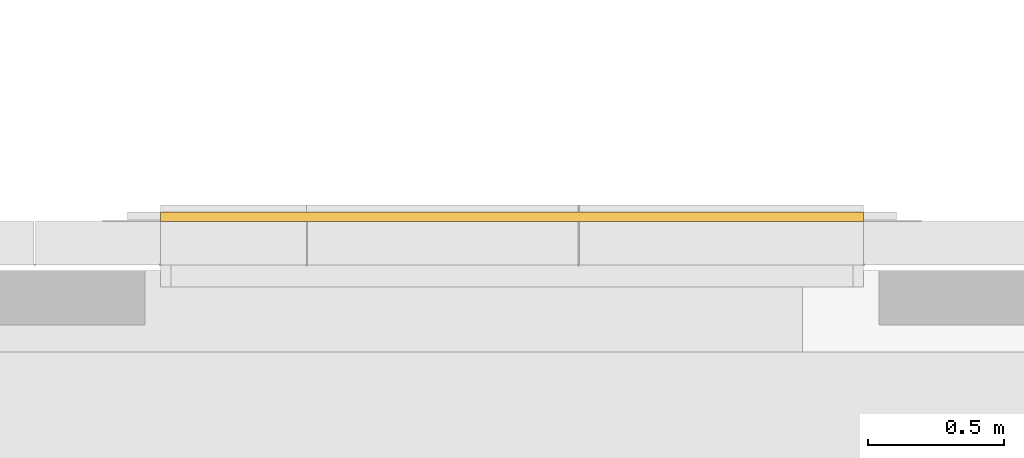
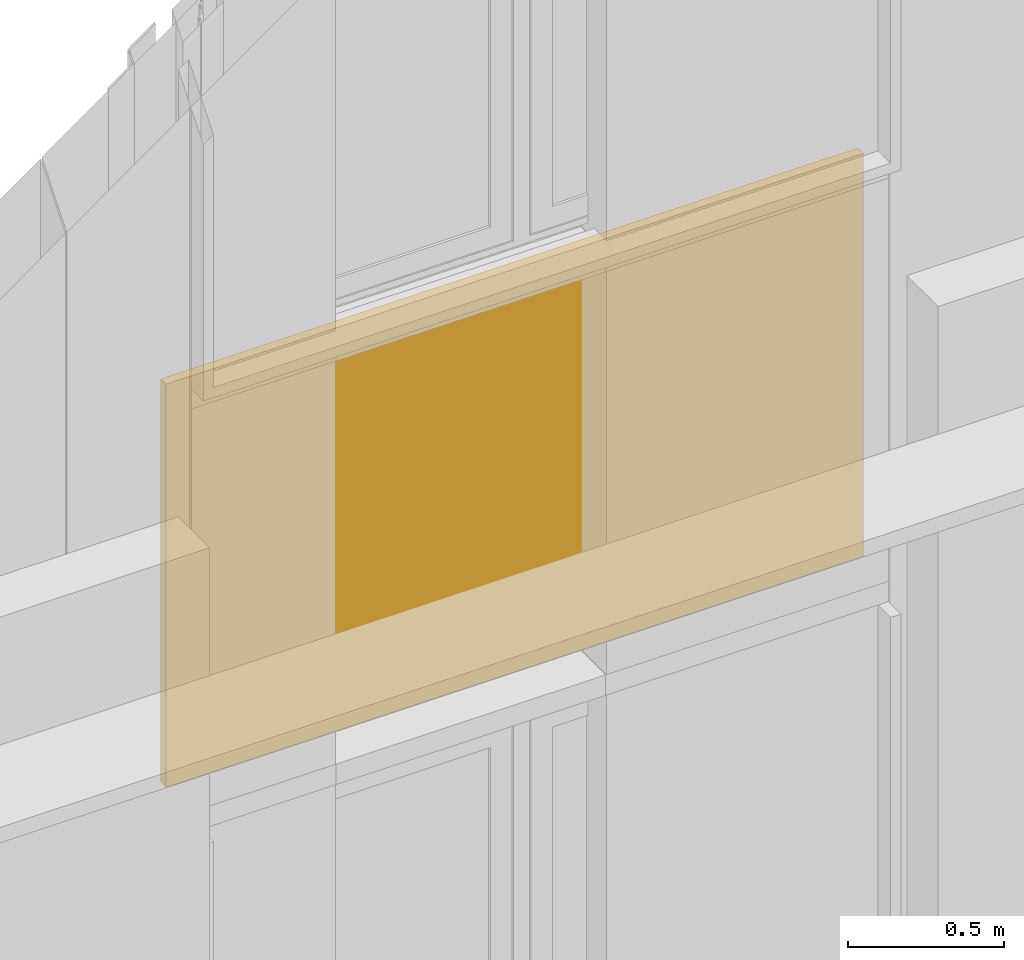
# One storey, part 237 of 302: 1 curtain wall, 1 element without a shape of its own.
"""IFC2X3 building model written with IfcOpenShell, lengths in metres."""

from ifc_helpers import new_model, entity, si_unit, converted_unit, derived_unit, direction, frame, frame_2d, origin, place, context, subcontext, project, spatial, rectangle, extrude, material, layer, layer_set, layer_usage, type_object, element, aggregate, save


model = new_model("IFC2X3")

# Units and contexts
model_context = context("Model", 3, precision=1e-05, world=origin(), true_north=direction((6.12303176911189e-17, 1.0)))
body_context = subcontext(model_context, "Body", "Model", "MODEL_VIEW")
ifc_project = project(units=[si_unit("LENGTHUNIT", "METRE"), si_unit("AREAUNIT", "SQUARE_METRE"), si_unit("VOLUMEUNIT", "CUBIC_METRE"), converted_unit("PLANEANGLEUNIT", "DEGREE", entity("IfcRatioMeasure", 0.0174532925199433), si_unit("PLANEANGLEUNIT", "RADIAN"), dimensions=[0, 0, 0, 0, 0, 0, 0]), si_unit("MASSUNIT", "GRAM", prefix="KILO"), derived_unit("MASSDENSITYUNIT", [(si_unit("MASSUNIT", "GRAM", prefix="KILO"), 1), (si_unit("LENGTHUNIT", "METRE"), -3)]), derived_unit("MOMENTOFINERTIAUNIT", [(si_unit("LENGTHUNIT", "METRE"), 4)]), si_unit("TIMEUNIT", "SECOND"), si_unit("FREQUENCYUNIT", "HERTZ"), si_unit("THERMODYNAMICTEMPERATUREUNIT", "DEGREE_CELSIUS"), derived_unit("THERMALTRANSMITTANCEUNIT", [(si_unit("MASSUNIT", "GRAM", prefix="KILO"), 1), (si_unit("THERMODYNAMICTEMPERATUREUNIT", "KELVIN"), -1), (si_unit("TIMEUNIT", "SECOND"), -3)]), derived_unit("VOLUMETRICFLOWRATEUNIT", [(si_unit("LENGTHUNIT", "METRE"), 3), (si_unit("TIMEUNIT", "SECOND"), -1)]), si_unit("ELECTRICCURRENTUNIT", "AMPERE"), si_unit("ELECTRICVOLTAGEUNIT", "VOLT"), si_unit("POWERUNIT", "WATT"), si_unit("FORCEUNIT", "NEWTON", prefix="KILO"), si_unit("ILLUMINANCEUNIT", "LUX"), si_unit("LUMINOUSFLUXUNIT", "LUMEN"), si_unit("LUMINOUSINTENSITYUNIT", "CANDELA"), derived_unit("USERDEFINED", [(si_unit("MASSUNIT", "GRAM", prefix="KILO"), -1), (si_unit("LENGTHUNIT", "METRE"), -2), (si_unit("TIMEUNIT", "SECOND"), 3), (si_unit("LUMINOUSFLUXUNIT", "LUMEN"), 1)]), derived_unit("LINEARVELOCITYUNIT", [(si_unit("LENGTHUNIT", "METRE"), 1), (si_unit("TIMEUNIT", "SECOND"), -1)]), si_unit("PRESSUREUNIT", "PASCAL"), derived_unit("USERDEFINED", [(si_unit("LENGTHUNIT", "METRE"), -2), (si_unit("MASSUNIT", "GRAM", prefix="KILO"), 1), (si_unit("TIMEUNIT", "SECOND"), -2)]), derived_unit("LINEARFORCEUNIT", [(si_unit("MASSUNIT", "GRAM", prefix="KILO"), 1), (si_unit("LENGTHUNIT", "METRE"), 1), (si_unit("TIMEUNIT", "SECOND"), -2), (si_unit("LENGTHUNIT", "METRE"), -1)]), derived_unit("PLANARFORCEUNIT", [(si_unit("MASSUNIT", "GRAM", prefix="KILO"), 1), (si_unit("LENGTHUNIT", "METRE"), 1), (si_unit("TIMEUNIT", "SECOND"), -2), (si_unit("LENGTHUNIT", "METRE"), -2)])], contexts=[model_context])

# Site, building, storey
site_placement = place(None, origin())
site = spatial("IfcSite", under=ifc_project, at=site_placement, Name="Default", CompositionType="ELEMENT")
building_placement = place(site_placement, origin())
building = spatial("IfcBuilding", under=site, at=building_placement, CompositionType="ELEMENT")
storey_placement = place(building_placement, frame((0.0, 0.0, -1.3)))
storey = spatial("IfcBuildingStorey", under=building, at=storey_placement, Name="00_EG", CompositionType="ELEMENT", Elevation=-1.3)

# Curtain walls
curtain_wall_type_1 = type_object("IfcCurtainWallType", Name="Fassade:Curtain Wall 1", PredefinedType="NOTDEFINED")
curtain_wall_1_placement = place(storey_placement, frame((0.0, 0.0, 1.3)))
curtain_wall_1 = element("IfcCurtainWall", 1, at=curtain_wall_1_placement, inside=storey, type_object=curtain_wall_type_1, Name="Fassade:Curtain Wall 1", ObjectType="Fassade:Curtain Wall 1")
ifc_material = material(Name="Glass")
ifc_layer = layer(ifc_material, 0.035)
ifc_layer_set = layer_set([ifc_layer], Name="Fassade:Sandwichpaneele 16cm")
ifc_layer_usage = layer_usage(ifc_layer_set, "AXIS2", "POSITIVE", -0.0175)
curtain_wall_type_2 = type_object("IfcCurtainWallType", Name="Basiswand:Glass", PredefinedType="NOTDEFINED", material=ifc_layer_set)
curtain_wall_2_placement = place(storey_placement, frame((-210.562611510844, 45.755588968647, 4.10999999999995), z_axis=(0.0, 0.0, 1.0), x_axis=(-1.0, 0.0, 0.0)))
curtain_wall_2 = element("IfcCurtainWall", 2, at=curtain_wall_2_placement, type_object=curtain_wall_type_2, material=ifc_layer_usage, Name="Basiswand:Glass", ObjectType="Basiswand:Glass", context=body_context, shape_type="SweptSolid", body=[
    extrude(rectangle(XDim=2.58500000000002, YDim=0.034999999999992, at=frame_2d((1.29250000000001, 0.0), x_axis=(-1.0, 0.0))), origin(), (0.0, 0.0, 1.0), 1.58000000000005),
])
aggregate(curtain_wall_1, [curtain_wall_2])

save(model, "model.ifc")
